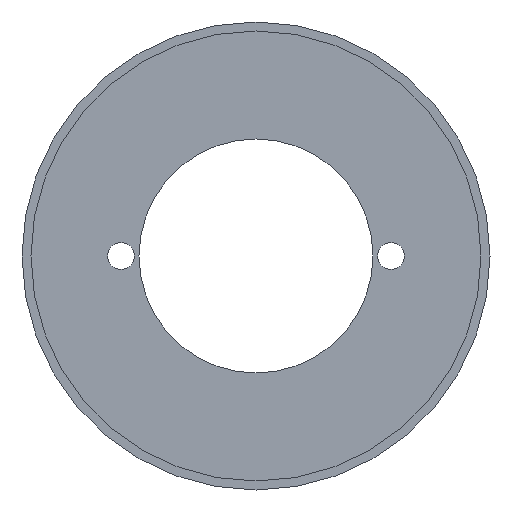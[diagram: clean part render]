
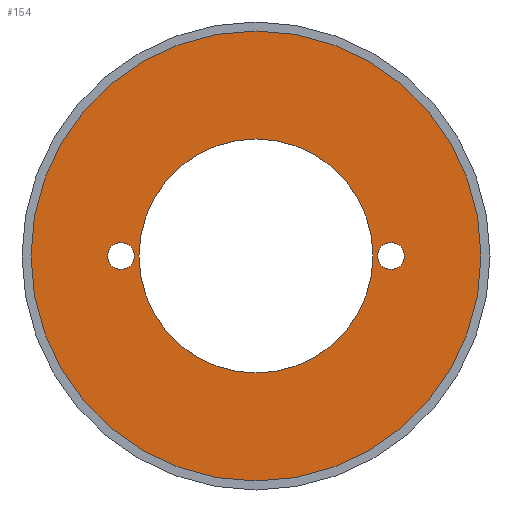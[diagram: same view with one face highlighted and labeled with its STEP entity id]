
A CAD part, front view. The second image highlights one B-rep face of the part: STEP entity #154.
In plain terms, the highlighted planar face has unit normal (0, -1, 0).
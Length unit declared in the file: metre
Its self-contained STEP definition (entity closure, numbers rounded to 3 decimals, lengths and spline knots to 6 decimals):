
#29=ORIENTED_EDGE('',*,*,#54,.F.);
#30=ORIENTED_EDGE('',*,*,#55,.F.);
#31=ORIENTED_EDGE('',*,*,#53,.F.);
#32=ORIENTED_EDGE('',*,*,#56,.T.);
#53=EDGE_CURVE('',#67,#67,#81,.T.);
#54=EDGE_CURVE('',#68,#68,#82,.F.);
#55=EDGE_CURVE('',#69,#69,#83,.F.);
#56=EDGE_CURVE('',#70,#70,#84,.T.);
#67=VERTEX_POINT('',#273);
#68=VERTEX_POINT('',#276);
#69=VERTEX_POINT('',#278);
#70=VERTEX_POINT('',#280);
#81=CIRCLE('',#185,0.013);
#82=CIRCLE('',#187,0.0015);
#83=CIRCLE('',#188,0.0015);
#84=CIRCLE('',#189,0.025);
#99=EDGE_LOOP('',(#29));
#100=EDGE_LOOP('',(#30));
#101=EDGE_LOOP('',(#31));
#102=EDGE_LOOP('',(#32));
#127=FACE_BOUND('',#99,.T.);
#128=FACE_BOUND('',#100,.T.);
#129=FACE_BOUND('',#101,.T.);
#130=FACE_BOUND('',#102,.T.);
#147=PLANE('',#186);
#154=ADVANCED_FACE('',(#127,#128,#129,#130),#147,.F.);
#185=AXIS2_PLACEMENT_3D('',#272,#223,#224);
#186=AXIS2_PLACEMENT_3D('',#274,#225,#226);
#187=AXIS2_PLACEMENT_3D('',#275,#227,#228);
#188=AXIS2_PLACEMENT_3D('',#277,#229,#230);
#189=AXIS2_PLACEMENT_3D('',#279,#231,#232);
#223=DIRECTION('',(0.,-1.,0.));
#224=DIRECTION('',(0.,0.,-1.));
#225=DIRECTION('',(0.,1.,0.));
#226=DIRECTION('',(0.,0.,1.));
#227=DIRECTION('',(0.,1.,0.));
#228=DIRECTION('',(0.,0.,1.));
#229=DIRECTION('',(0.,1.,0.));
#230=DIRECTION('',(0.,0.,1.));
#231=DIRECTION('',(0.,-1.,0.));
#232=DIRECTION('',(0.,0.,-1.));
#272=CARTESIAN_POINT('',(0.,0.,0.));
#273=CARTESIAN_POINT('',(0.,0.,-0.013));
#274=CARTESIAN_POINT('',(-0.013,0.,0.));
#275=CARTESIAN_POINT('',(0.015,0.,0.));
#276=CARTESIAN_POINT('',(0.015,0.,0.0015));
#277=CARTESIAN_POINT('',(-0.015,0.,0.));
#278=CARTESIAN_POINT('',(-0.015,0.,0.0015));
#279=CARTESIAN_POINT('',(0.,0.,0.));
#280=CARTESIAN_POINT('',(0.,0.,-0.025));
